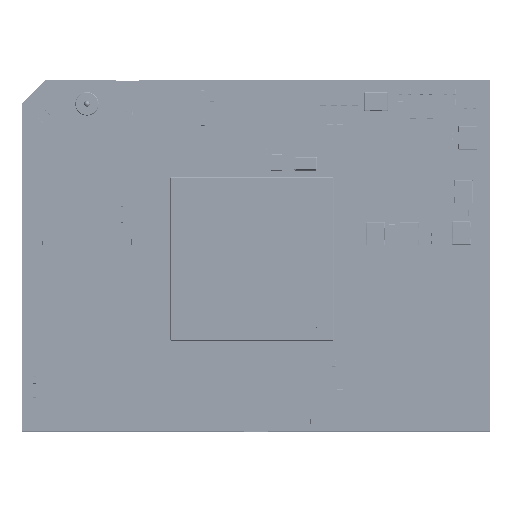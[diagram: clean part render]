
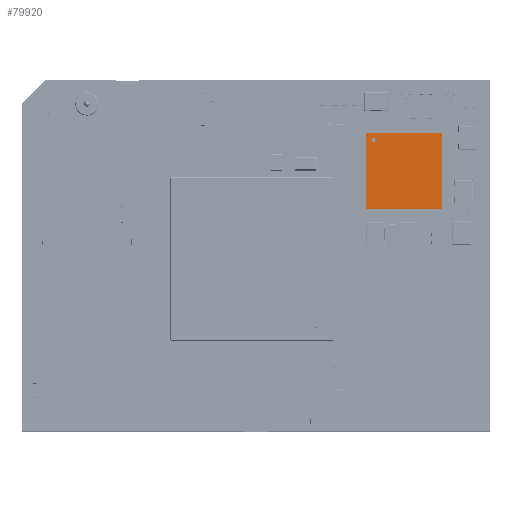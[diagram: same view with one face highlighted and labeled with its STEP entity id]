
A CAD part, top view. The second image highlights one B-rep face of the part: STEP entity #79920.
In plain terms, the highlighted planar face has unit normal (0, 0, 1).
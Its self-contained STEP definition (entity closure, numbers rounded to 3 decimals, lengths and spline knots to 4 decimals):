
#64898=FACE_OUTER_BOUND('',#71658,.T.);
#71658=EDGE_LOOP('',(#129719,#129720,#129721,#129722));
#74791=PLANE('',#108561);
#79920=ADVANCED_FACE('',(#64898),#74791,.T.);
#108561=AXIS2_PLACEMENT_3D('',#265350,#224867,#224868);
#129719=ORIENTED_EDGE('',*,*,#151807,.T.);
#129720=ORIENTED_EDGE('',*,*,#151811,.T.);
#129721=ORIENTED_EDGE('',*,*,#151814,.T.);
#129722=ORIENTED_EDGE('',*,*,#151816,.T.);
#151807=EDGE_CURVE('',#186299,#186298,#171402,.T.);
#151811=EDGE_CURVE('',#186298,#186301,#171406,.T.);
#151814=EDGE_CURVE('',#186301,#186303,#171409,.T.);
#151816=EDGE_CURVE('',#186303,#186299,#171411,.T.);
#162272=VECTOR('',#224849,6.5024);
#162276=VECTOR('',#224855,6.5024);
#162279=VECTOR('',#224860,6.5024);
#162281=VECTOR('',#224864,6.5024);
#171402=LINE('',#265341,#162272);
#171406=LINE('',#265340,#162276);
#171409=LINE('',#265344,#162279);
#171411=LINE('',#265347,#162281);
#186298=VERTEX_POINT('',#265340);
#186299=VERTEX_POINT('',#265341);
#186301=VERTEX_POINT('',#265344);
#186303=VERTEX_POINT('',#265347);
#224849=DIRECTION('',(1.,0.,0.));
#224855=DIRECTION('',(0.,1.,0.));
#224860=DIRECTION('',(-1.,0.,0.));
#224864=DIRECTION('',(0.,-1.,0.));
#224867=DIRECTION('',(0.,0.,1.));
#224868=DIRECTION('',(0.,1.,0.));
#265340=CARTESIAN_POINT('',(3.251,-3.251,0.889));
#265341=CARTESIAN_POINT('',(-3.251,-3.251,0.889));
#265344=CARTESIAN_POINT('',(3.251,3.251,0.889));
#265347=CARTESIAN_POINT('',(-3.251,3.251,0.889));
#265350=CARTESIAN_POINT('',(-3.251,-3.251,0.889));
